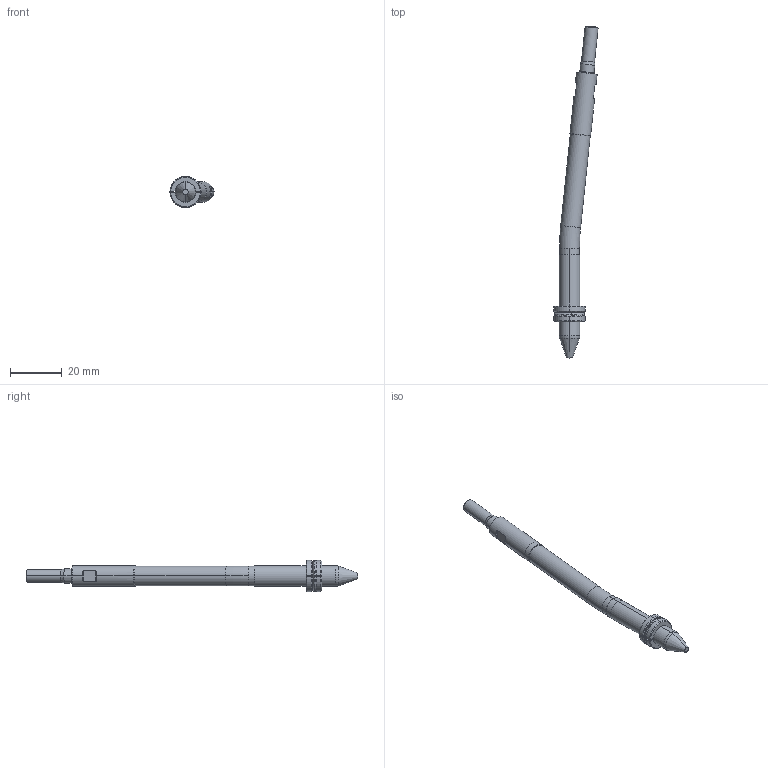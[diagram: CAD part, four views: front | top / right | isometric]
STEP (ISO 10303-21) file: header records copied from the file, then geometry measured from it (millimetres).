
FILE_DESCRIPTION (( 'STEP AP214' ), '1' );
FILE_NAME ('WP080030-EJE 6°.STEP', '2021-03-19T15:18:58', ( '' ), ( '' ), 'SwSTEP 2.0', 'SolidWorks 2019', '' );
FILE_SCHEMA (( 'AUTOMOTIVE_DESIGN' ));
Length unit declared in the file: millimetre
Products named in the file (6): Web-WP08-F_WP08-F-ON 6ø; Web-WP08-1; WP080030-EJE 6°; Web-WP08-6; Web-WP08-2; Web-WP08-7
Assembly tree (5 placements, depth 2):
  WP080030-EJE 6°
    Web-WP08-1
    Web-WP08-F_WP08-F-ON 6ø
    Web-WP08-2
    Web-WP08-6
    Web-WP08-7
Bounding box: 16.98 x 127.79 x 12 mm (x, y, z)
Volume: 5841.2 mm3; surface area: 4095.3 mm2
Topology: 6 solids, 6 shells, 121 faces, 280 edges, 174 vertices
Faces by surface type: cylinder 36, plane 29, cone 28, torus 28
Entity records: 3977 total; most frequent: CARTESIAN_POINT 767, DIRECTION 652, ORIENTED_EDGE 560, AXIS2_PLACEMENT_3D 283, EDGE_CURVE 280, VERTEX_POINT 174, CIRCLE 154, EDGE_LOOP 126
